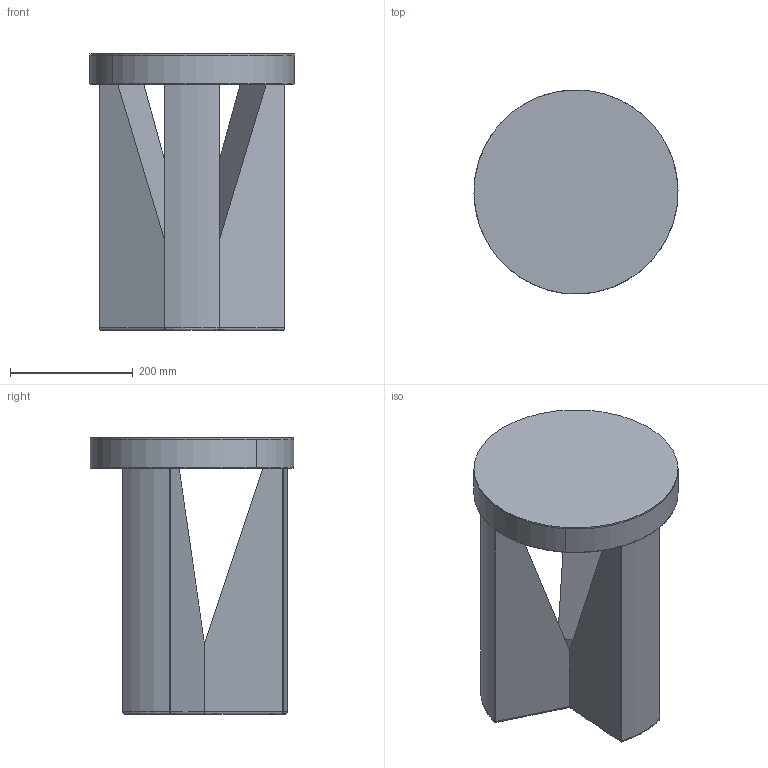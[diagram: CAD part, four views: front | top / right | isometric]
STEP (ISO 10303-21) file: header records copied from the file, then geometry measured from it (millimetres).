
FILE_DESCRIPTION(/* description */ (''),/* implementation_level */ '2;1');
FILE_NAME(/* name */ 'MC20_C~2',/* time_stamp */ '2023-08-08T11:42:34+02:00',/* author */ (''),/* organization */ (''),/* preprocessor_version */ 'ST-DEVELOPER v16.5',/* originating_system */ '',/* authorisation */ '');
FILE_SCHEMA (('AUTOMOTIVE_DESIGN'));
Length unit declared in the file: millimetre
Products named in the file (1): Document
Bounding box: 331.97 x 331.8 x 450 mm (x, y, z)
Volume: 4337826.5 mm3; surface area: 686403.3 mm2
Topology: 1 solids, 2 shells, 61 faces, 161 edges, 86 vertices
Faces by surface type: bspline 45, plane 16
Entity records: 3904 total; most frequent: CARTESIAN_POINT 3082, ORIENTED_EDGE 274, EDGE_CURVE 155, VERTEX_POINT 86, ADVANCED_FACE 61, FACE_OUTER_BOUND 61, EDGE_LOOP 61, B_SPLINE_CURVE_WITH_KNOTS 40
